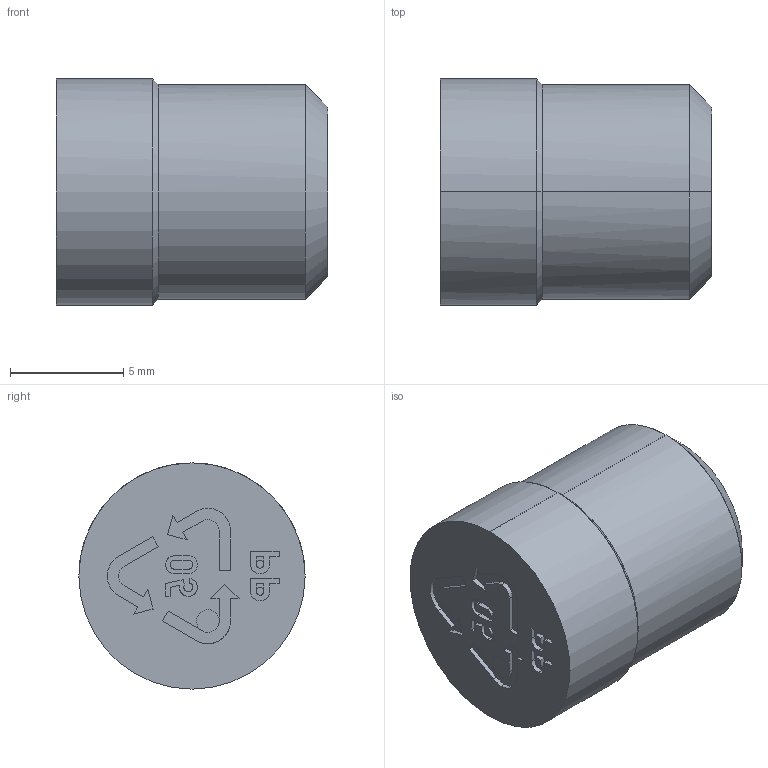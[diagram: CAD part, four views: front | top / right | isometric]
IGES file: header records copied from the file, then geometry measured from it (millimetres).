
Start section: START RECORD GO HERE.
Global section: file name: MSO510.igs; native system: DASSAULT SYSTEMES CATIA V5 R20 - www.3ds.com; preprocessor: CATIA Version 5 Release 20 ; author: Utente; organization: NB04-ASUS; date: 20210326.143921; units: millimetre
Bounding box: 12 x 10 x 10 mm (x, y, z)
Surface area: 576.9 mm2 (no closed solid volume)
Topology: 0 solids, 0 shells, 106 faces, 580 edges, 572 vertices
Faces by surface type: plane 66, revolution 40
